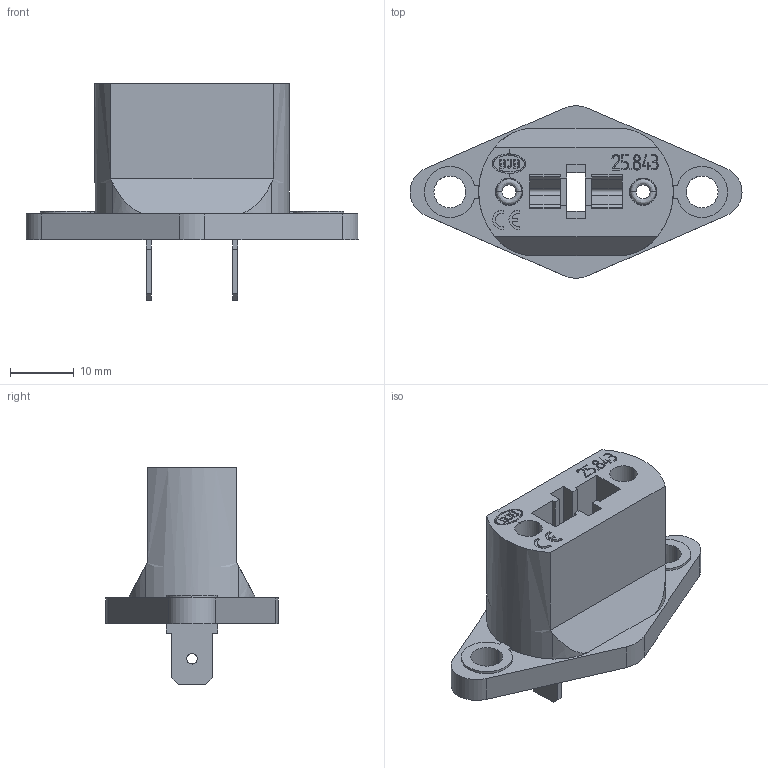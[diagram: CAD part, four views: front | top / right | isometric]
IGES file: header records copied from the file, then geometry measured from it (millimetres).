
Global section: file name: C:\CoreTechnologie\3D-In/020YQ01Y04.igs; native system: CT CoreTechnologie 3D Evolution; preprocessor: 2006; date: 1210626.100200; units: millimetre
Bounding box: 52 x 26.97 x 33.92 mm (x, y, z)
Volume: 9119.1 mm3; surface area: 6432.5 mm2
Topology: 1 solids, 3 shells, 360 faces, 972 edges, 650 vertices
Faces by surface type: plane 249, revolution 58, bspline 53
